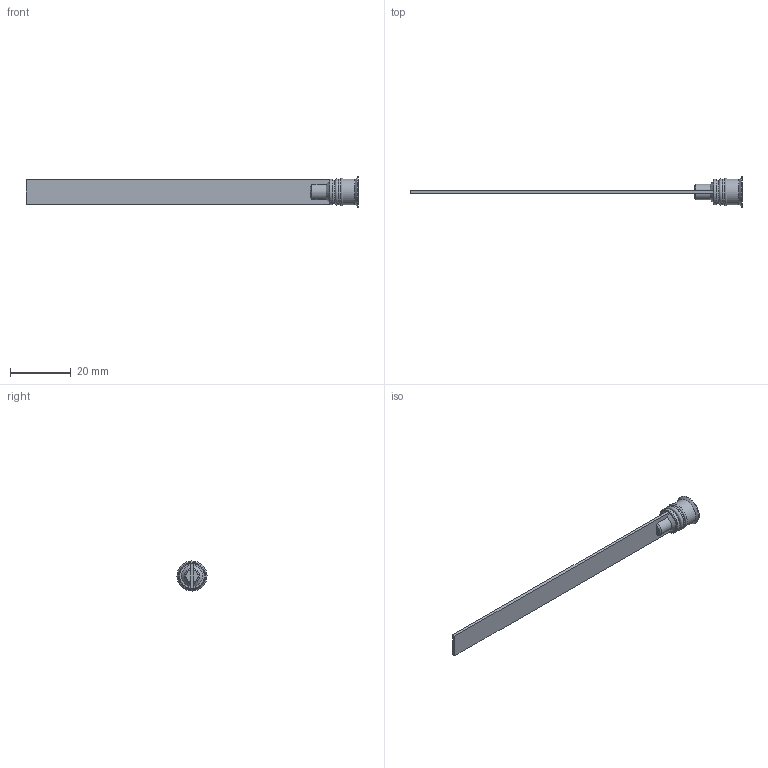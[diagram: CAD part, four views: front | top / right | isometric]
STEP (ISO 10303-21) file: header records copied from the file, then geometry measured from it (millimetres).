
FILE_DESCRIPTION( ( 'STEP AP214' ), '1' );
FILE_NAME( 'p:/temp/worker_228/temp/exporttempdir_3212_199_DyeR5/format_0/RL-8x100.stp', '2021-02-05T19:39:33', ( 'License CC BY-ND 4.0' ), ( 'CADENAS' ), ' ', 'PARTsolutions', ' ' );
FILE_SCHEMA( ( 'AUTOMOTIVE_DESIGN { 1 0 10303 214 1 1 1 1 }' ) );
Length unit declared in the file: millimetre
Products named in the file (1): _RL-8x100
Bounding box: 109.5 x 9.9 x 9.9 mm (x, y, z)
Volume: 1358.2 mm3; surface area: 2448 mm2
Topology: 1 solids, 1 shells, 48 faces, 116 edges, 75 vertices
Faces by surface type: plane 27, cone 10, cylinder 9, torus 2
Full cylindrical faces by diameter (mm): 4.9 x1, 8.5 x3, 9.9 x1
Entity records: 1754 total; most frequent: CARTESIAN_POINT 275, DIRECTION 216, ORIENTED_EDGE 208, EDGE_CURVE 104, AXIS2_PLACEMENT_3D 77, VERTEX_POINT 76, EDGE_LOOP 64, LINE 62
